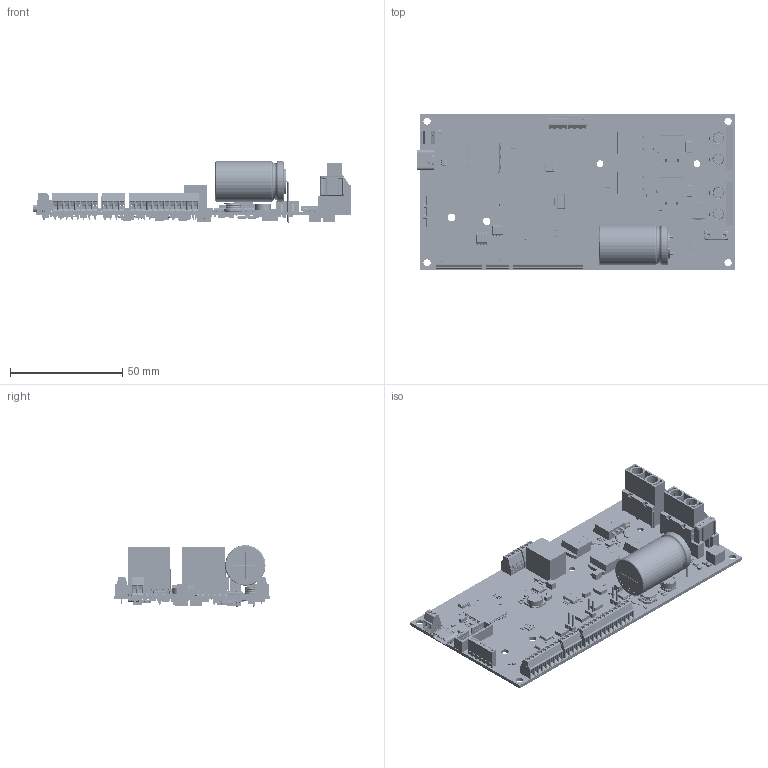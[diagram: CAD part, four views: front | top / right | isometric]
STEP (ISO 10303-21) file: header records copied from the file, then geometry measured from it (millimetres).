
FILE_DESCRIPTION(/* description */ (''),/* implementation_level */ '2;1');
FILE_NAME(/* name */ 'ADJ-48-450-UR-V2.step',/* time_stamp */ '2024-02-02T14:23:32Z',/* author */ (''),/* organization */ (''),/* preprocessor_version */ 'ST-DEVELOPER v20',/* originating_system */ 'Autodesk Translation Framework v12.20.1.177',/* authorisation */ '');
FILE_SCHEMA (('AUTOMOTIVE_DESIGN { 1 0 10303 214 3 1 1 }'));
Products named in the file (2): ADJ-48-450-UR-V2; Component649
Assembly tree (1 placements, depth 2):
  ADJ-48-450-UR-V2
    Component649
Bounding box: 141.38 x 69 x 27.4 mm (x, y, z)
Volume: 37674.5 mm3; surface area: 48734.4 mm2
Topology: 59 solids, 92 shells, 20647 faces, 58805 edges, 38603 vertices
Faces by surface type: plane 14575, cylinder 3389, bspline 1930, sphere 412, torus 254, cone 87
Full cylindrical faces by diameter (mm): 0.238 x5, 0.25 x7, 0.254 x1, 0.275 x2, 0.3 x8, 0.457 x1, 0.5 x3, 0.635 x4, 0.65 x3, 0.7 x20, 0.8 x5, 0.9 x14, 1 x9, 1.1 x14, 1.194 x2, 1.5 x1, 1.6 x28, 1.7 x27, 2.1 x2, 2.2 x29, 2.7 x12, 3 x2, 3.1 x4, 3.2 x4, 3.4 x2, 3.5 x16, 5.2 x4, 5.8 x2, 6 x2, 7 x2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
Entity records: 720696 total; most frequent: CARTESIAN_POINT 186283, ORIENTED_EDGE 117300, DIRECTION 98611, EDGE_CURVE 58650, LINE 45327, VECTOR 45327, VERTEX_POINT 38743, AXIS2_PLACEMENT_3D 26642
